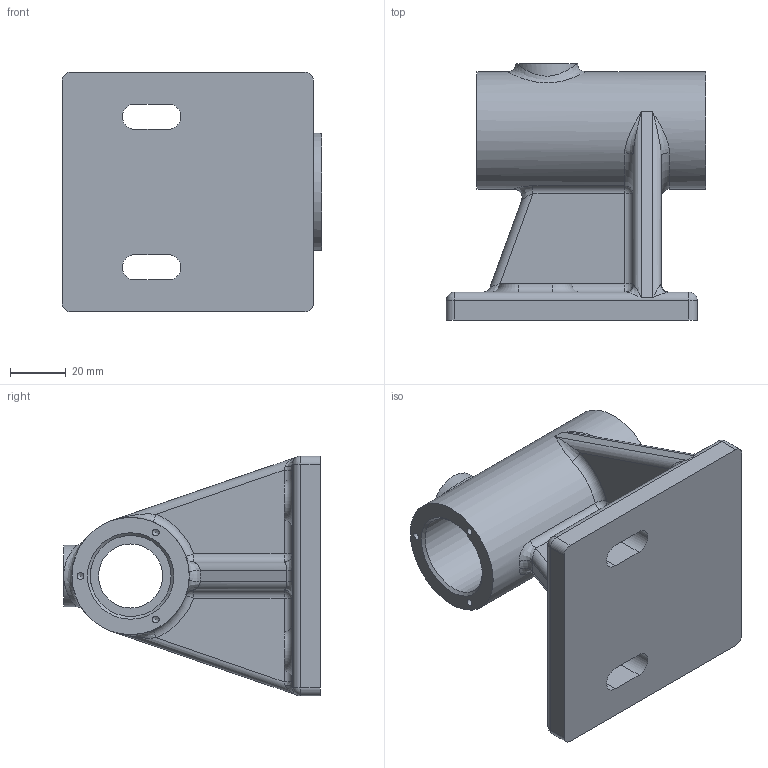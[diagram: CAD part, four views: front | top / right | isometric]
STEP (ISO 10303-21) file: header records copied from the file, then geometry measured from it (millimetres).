
FILE_DESCRIPTION(/* description */ (''),/* implementation_level */ '2;1');
FILE_NAME(/* name */ 'C:\Users\거성\Desktop\620205E1002\620205E1002-3D.stp',/* time_stamp */ '2022-02-19T10:39:14+09:00',/* author */ ('거성'),/* organization */ (''),/* preprocessor_version */ 'ST-DEVELOPER v15.2',/* originating_system */ 'Autodesk Inventor 2014',/* authorisation */ '');
FILE_SCHEMA (('AUTOMOTIVE_DESIGN { 1 0 10303 214 3 1 1 }'));
Length unit declared in the file: millimetre
Products named in the file (1): 620205E1002-3D
Bounding box: 93 x 92 x 86 mm (x, y, z)
Volume: 186760 mm3; surface area: 47380.1 mm2
Topology: 1 solids, 1 shells, 112 faces, 264 edges, 150 vertices
Faces by surface type: cylinder 45, plane 26, bspline 18, cone 8, sphere 8, torus 7
Full cylindrical faces by diameter (mm): 2.459 x6, 4.917 x1, 14 x1, 23 x1, 29 x1, 42 x1
Entity records: 3735 total; most frequent: CARTESIAN_POINT 1326, DIRECTION 524, ORIENTED_EDGE 450, EDGE_CURVE 225, AXIS2_PLACEMENT_3D 221, EDGE_LOOP 145, VERTEX_POINT 140, ADVANCED_FACE 112
